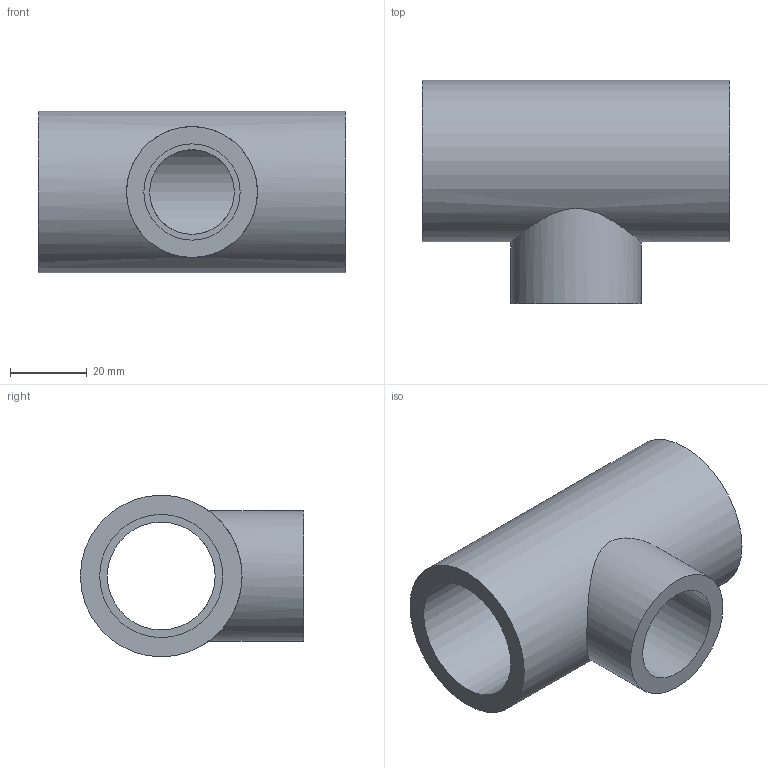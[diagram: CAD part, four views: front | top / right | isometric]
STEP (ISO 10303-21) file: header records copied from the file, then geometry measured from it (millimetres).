
FILE_DESCRIPTION(/* description */ ('PVC ti a 90° ridotto incollaggio metrico'),/* implementation_level */ '2;1');
FILE_NAME(/* name */ 'C:\Users\POLYPIPE\Desktop\DATASET INVENTOR\LIBRERIA EFFAST\RACCORDI 3DxWEB\RDR\3D_RDRTRD\3D_RDRTRD032C.stp',/* time_stamp */ '2018-01-19T15:45:47+01:00',/* author */ ('POLYPIPE'),/* organization */ ('Polypipe Italia s.r.l.'),/* preprocessor_version */ 'ST-DEVELOPER v16.1',/* originating_system */ 'Autodesk Inventor 2016',/* authorisation */ '');
FILE_SCHEMA (('CONFIG_CONTROL_DESIGN'));
Length unit declared in the file: millimetre
Products named in the file (1): 3D_RDRTRD
Bounding box: 80 x 58 x 42 mm (x, y, z)
Volume: 57865.9 mm3; surface area: 22892.6 mm2
Topology: 1 solids, 1 shells, 13 faces, 23 edges, 16 vertices
Faces by surface type: cylinder 7, plane 6
Full cylindrical faces by diameter (mm): 22 x1, 25 x1, 28 x1, 32 x2, 34 x1, 42 x1
Entity records: 414 total; most frequent: CARTESIAN_POINT 156, DIRECTION 52, EDGE_LOOP 28, ORIENTED_EDGE 28, AXIS2_PLACEMENT_3D 26, FACE_BOUND 15, VERTEX_POINT 14, EDGE_CURVE 14
